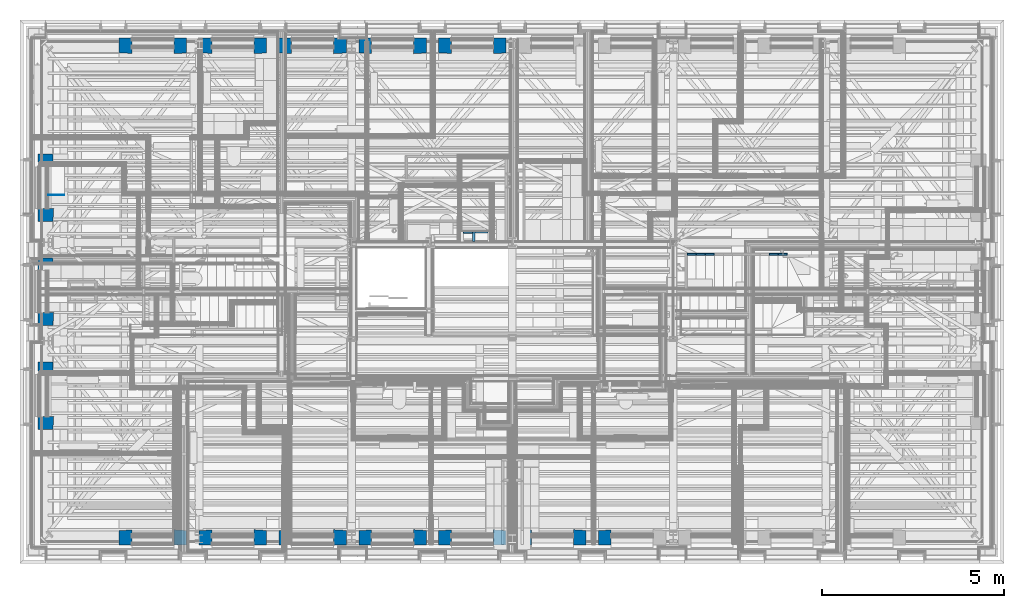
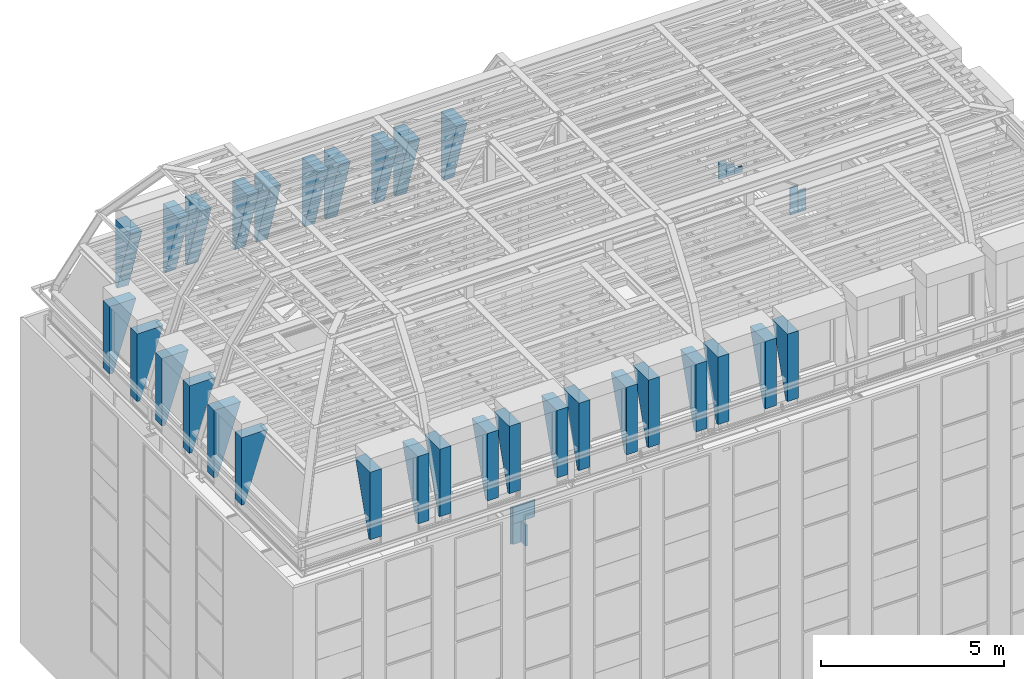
# One storey, part 24 of 183: 38 walls.
"""IFC2X3 building model written with IfcOpenShell, lengths in metres."""

from ifc_helpers import new_model, entity, si_unit, converted_unit, derived_unit, money_unit, direction, frame, frame_2d, origin_with_axes, place, context, subcontext, project, spatial, polyline, rectangle, outline, extrude, faceted_brep, material, layer, layer_set, layer_usage, type_object, element, save


model = new_model("IFC2X3")

# Units and contexts
model_context = context("Model", 3, precision=1e-05, world=origin_with_axes(), true_north=direction((0.0, 1.0)))
body_context = subcontext(model_context, "Body", "Model", "MODEL_VIEW", scale=1.0)
ifc_project = project(units=[si_unit("LENGTHUNIT", "METRE"), si_unit("AREAUNIT", "SQUARE_METRE"), si_unit("VOLUMEUNIT", "CUBIC_METRE"), si_unit("ABSORBEDDOSEUNIT", "GRAY"), si_unit("AMOUNTOFSUBSTANCEUNIT", "MOLE"), si_unit("DOSEEQUIVALENTUNIT", "SIEVERT"), si_unit("ELECTRICCAPACITANCEUNIT", "FARAD"), si_unit("ELECTRICCHARGEUNIT", "COULOMB"), si_unit("ELECTRICCONDUCTANCEUNIT", "SIEMENS"), si_unit("ELECTRICCURRENTUNIT", "AMPERE"), si_unit("ELECTRICRESISTANCEUNIT", "OHM"), si_unit("ELECTRICVOLTAGEUNIT", "VOLT"), si_unit("ENERGYUNIT", "JOULE"), si_unit("FORCEUNIT", "NEWTON"), si_unit("FREQUENCYUNIT", "HERTZ"), si_unit("ILLUMINANCEUNIT", "LUX"), si_unit("INDUCTANCEUNIT", "HENRY"), si_unit("LUMINOUSFLUXUNIT", "LUMEN"), si_unit("LUMINOUSINTENSITYUNIT", "CANDELA"), si_unit("MAGNETICFLUXDENSITYUNIT", "TESLA"), si_unit("MAGNETICFLUXUNIT", "WEBER"), si_unit("MASSUNIT", "GRAM"), converted_unit("PLANEANGLEUNIT", "degree", entity("IfcReal", 0.0174532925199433), si_unit("PLANEANGLEUNIT", "RADIAN"), dimensions=[0, 0, 0, 0, 0, 0, 0]), si_unit("POWERUNIT", "WATT"), si_unit("PRESSUREUNIT", "PASCAL"), si_unit("RADIOACTIVITYUNIT", "BECQUEREL"), si_unit("SOLIDANGLEUNIT", "STERADIAN"), si_unit("THERMODYNAMICTEMPERATUREUNIT", "KELVIN"), si_unit("TIMEUNIT", "SECOND"), derived_unit("ACCELERATIONUNIT", [(si_unit("LENGTHUNIT", "METRE"), 1), (si_unit("TIMEUNIT", "SECOND"), -2)]), derived_unit("ANGULARVELOCITYUNIT", [(converted_unit("PLANEANGLEUNIT", "degree", entity("IfcReal", 0.0174532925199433), si_unit("PLANEANGLEUNIT", "RADIAN"), dimensions=[0, 0, 0, 0, 0, 0, 0]), 1), (si_unit("TIMEUNIT", "SECOND"), -1)]), derived_unit("CURVATUREUNIT", [(converted_unit("PLANEANGLEUNIT", "degree", entity("IfcReal", 0.0174532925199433), si_unit("PLANEANGLEUNIT", "RADIAN"), dimensions=[0, 0, 0, 0, 0, 0, 0]), 1), (si_unit("LENGTHUNIT", "METRE"), -1)]), derived_unit("DYNAMICVISCOSITYUNIT", [(si_unit("PRESSUREUNIT", "PASCAL"), 1), (si_unit("TIMEUNIT", "SECOND"), 1)]), derived_unit("HEATFLUXDENSITYUNIT", [(si_unit("POWERUNIT", "WATT"), 1), (si_unit("LENGTHUNIT", "METRE"), -2)]), derived_unit("HEATINGVALUEUNIT", [(si_unit("ENERGYUNIT", "JOULE"), 1), (si_unit("MASSUNIT", "GRAM"), -1)]), derived_unit("INTEGERCOUNTRATEUNIT", [(si_unit("TIMEUNIT", "SECOND"), -1)]), derived_unit("IONCONCENTRATIONUNIT", [(si_unit("MASSUNIT", "GRAM"), 1), (si_unit("VOLUMEUNIT", "CUBIC_METRE"), -1)]), derived_unit("ISOTHERMALMOISTURECAPACITYUNIT", [(si_unit("VOLUMEUNIT", "CUBIC_METRE"), 1), (si_unit("MASSUNIT", "GRAM"), -1)]), derived_unit("KINEMATICVISCOSITYUNIT", [(si_unit("AREAUNIT", "SQUARE_METRE"), 1), (si_unit("TIMEUNIT", "SECOND"), -1)]), derived_unit("LINEARFORCEUNIT", [(si_unit("FORCEUNIT", "NEWTON"), 1), (si_unit("LENGTHUNIT", "METRE"), -1)]), derived_unit("LINEARMOMENTUNIT", [(si_unit("FORCEUNIT", "NEWTON"), 1), (si_unit("LENGTHUNIT", "METRE"), -1)]), derived_unit("LINEARSTIFFNESSUNIT", [(si_unit("FORCEUNIT", "NEWTON"), 1), (si_unit("LENGTHUNIT", "METRE"), -1)]), derived_unit("LINEARVELOCITYUNIT", [(si_unit("LENGTHUNIT", "METRE"), 1), (si_unit("TIMEUNIT", "SECOND"), -1)]), derived_unit("LUMINOUSINTENSITYDISTRIBUTIONUNIT", [(si_unit("LUMINOUSINTENSITYUNIT", "CANDELA"), 1), (si_unit("LUMINOUSFLUXUNIT", "LUMEN"), -1)]), derived_unit("MASSDENSITYUNIT", [(si_unit("MASSUNIT", "GRAM"), 1), (si_unit("VOLUMEUNIT", "CUBIC_METRE"), -1)]), derived_unit("MASSFLOWRATEUNIT", [(si_unit("MASSUNIT", "GRAM"), 1), (si_unit("TIMEUNIT", "SECOND"), -1)]), derived_unit("MASSPERLENGTHUNIT", [(si_unit("MASSUNIT", "GRAM"), 1), (si_unit("LENGTHUNIT", "METRE"), -1)]), derived_unit("MODULUSOFELASTICITYUNIT", [(si_unit("FORCEUNIT", "NEWTON"), 1), (si_unit("AREAUNIT", "SQUARE_METRE"), -1)]), derived_unit("MODULUSOFLINEARSUBGRADEREACTIONUNIT", [(si_unit("FORCEUNIT", "NEWTON"), 1), (si_unit("LENGTHUNIT", "METRE"), -2)]), derived_unit("MODULUSOFROTATIONALSUBGRADEREACTIONUNIT", [(si_unit("FORCEUNIT", "NEWTON"), 1), (si_unit("LENGTHUNIT", "METRE"), 1)]), derived_unit("MODULUSOFSUBGRADEREACTIONUNIT", [(si_unit("FORCEUNIT", "NEWTON"), 1), (si_unit("VOLUMEUNIT", "CUBIC_METRE"), -1)]), derived_unit("MOISTUREDIFFUSIVITYUNIT", [(si_unit("VOLUMEUNIT", "CUBIC_METRE"), 1), (si_unit("TIMEUNIT", "SECOND"), -1)]), derived_unit("MOLECULARWEIGHTUNIT", [(si_unit("MASSUNIT", "GRAM"), 1), (si_unit("AMOUNTOFSUBSTANCEUNIT", "MOLE"), -1)]), derived_unit("PLANARFORCEUNIT", [(si_unit("FORCEUNIT", "NEWTON"), 1), (si_unit("LENGTHUNIT", "METRE"), -2)]), derived_unit("ROTATIONALFREQUENCYUNIT", [(si_unit("TIMEUNIT", "SECOND"), -1)]), derived_unit("ROTATIONALMASSUNIT", [(si_unit("MASSUNIT", "GRAM"), 1), (si_unit("LENGTHUNIT", "METRE"), 2)]), derived_unit("ROTATIONALSTIFFNESSUNIT", [(si_unit("FORCEUNIT", "NEWTON"), 1), (si_unit("LENGTHUNIT", "METRE"), 1), (converted_unit("PLANEANGLEUNIT", "degree", entity("IfcReal", 0.0174532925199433), si_unit("PLANEANGLEUNIT", "RADIAN"), dimensions=[0, 0, 0, 0, 0, 0, 0]), -1)]), derived_unit("SECTIONAREAINTEGRALUNIT", [(si_unit("LENGTHUNIT", "METRE"), 5)]), derived_unit("SECTIONMODULUSUNIT", [(si_unit("LENGTHUNIT", "METRE"), 3)]), derived_unit("SHEARMODULUSUNIT", [(si_unit("FORCEUNIT", "NEWTON"), 1), (si_unit("AREAUNIT", "SQUARE_METRE"), -1)]), derived_unit("SOUNDPOWERUNIT", [(si_unit("ENERGYUNIT", "JOULE"), 1), (si_unit("TIMEUNIT", "SECOND"), -1)]), derived_unit("SPECIFICHEATCAPACITYUNIT", [(si_unit("FORCEUNIT", "NEWTON"), 1), (si_unit("MASSUNIT", "GRAM"), -1), (si_unit("THERMODYNAMICTEMPERATUREUNIT", "KELVIN"), -1)]), derived_unit("TEMPERATUREGRADIENTUNIT", [(si_unit("THERMODYNAMICTEMPERATUREUNIT", "KELVIN"), 1), (si_unit("LENGTHUNIT", "METRE"), -1)]), derived_unit("THERMALADMITTANCEUNIT", [(si_unit("POWERUNIT", "WATT"), 1), (si_unit("AREAUNIT", "SQUARE_METRE"), -1), (si_unit("THERMODYNAMICTEMPERATUREUNIT", "KELVIN"), -1)]), derived_unit("THERMALCONDUCTANCEUNIT", [(si_unit("POWERUNIT", "WATT"), 1), (si_unit("LENGTHUNIT", "METRE"), -1), (si_unit("THERMODYNAMICTEMPERATUREUNIT", "KELVIN"), -1)]), derived_unit("THERMALEXPANSIONCOEFFICIENTUNIT", [(si_unit("THERMODYNAMICTEMPERATUREUNIT", "KELVIN"), -1)]), derived_unit("THERMALRESISTANCEUNIT", [(si_unit("AREAUNIT", "SQUARE_METRE"), 1), (si_unit("POWERUNIT", "WATT"), -1)]), derived_unit("THERMALTRANSMITTANCEUNIT", [(si_unit("POWERUNIT", "WATT"), 1), (si_unit("AREAUNIT", "SQUARE_METRE"), -1), (si_unit("THERMODYNAMICTEMPERATUREUNIT", "KELVIN"), -1)]), derived_unit("TORQUEUNIT", [(si_unit("FORCEUNIT", "NEWTON"), 1), (si_unit("LENGTHUNIT", "METRE"), 1)]), derived_unit("VAPORPERMEABILITYUNIT", [(si_unit("MASSUNIT", "GRAM"), 1), (si_unit("TIMEUNIT", "SECOND"), -1)]), derived_unit("VOLUMETRICFLOWRATEUNIT", [(si_unit("VOLUMEUNIT", "CUBIC_METRE"), 1), (si_unit("TIMEUNIT", "SECOND"), -1)]), derived_unit("WARPINGCONSTANTUNIT", [(si_unit("LENGTHUNIT", "METRE"), 6)]), derived_unit("WARPINGMOMENTUNIT", [(si_unit("FORCEUNIT", "NEWTON"), 1), (si_unit("LENGTHUNIT", "METRE"), 2)]), money_unit("GBP")], contexts=[model_context])

# Site, building, storey
site_placement = place(None, origin_with_axes())
site = spatial("IfcSite", under=ifc_project, at=site_placement, Name="Site", CompositionType="ELEMENT")
building_placement = place(site_placement, origin_with_axes())
building = spatial("IfcBuilding", under=site, at=building_placement, Name="Building01", CompositionType="ELEMENT")
storey_placement = place(building_placement, frame((0.0, 0.0, 5.15), z_axis=(0.0, 0.0, 1.0), x_axis=(1.0, 0.0, 0.0)))
storey = spatial("IfcBuildingStorey", under=building, at=storey_placement, Name="1F", CompositionType="ELEMENT", Elevation=5.15)

# Walls
ifc_material_1 = material(Name="A_BSUK_WallsInternal")
ifc_layer_1 = layer(ifc_material_1, 0.05, ventilated=False)
ifc_layer_set_1 = layer_set([ifc_layer_1])
ifc_layer_usage_1 = layer_usage(ifc_layer_set_1, "AXIS2", "POSITIVE", 0.0)
wall_type_1 = type_object("IfcWallType", Name="A-Walls-Internal", PredefinedType="NOTDEFINED")
wall_1_placement = place(storey_placement, frame((20.539976, 8.449915, 9.78), z_axis=(0.0, 0.0, 1.0), x_axis=(1.0, 0.0, 0.0)))
element("IfcWallStandardCase", 1, at=wall_1_placement, inside=storey, type_object=wall_type_1, material=ifc_layer_usage_1, Name="A-Walls-Internal", ObjectType="A-Walls-Internal", context=body_context, shape_type="SweptSolid", body=[
    extrude(rectangle(XDim=0.25, YDim=0.05, at=frame_2d((0.125, 0.025), x_axis=(1.0, 0.0))), origin_with_axes(), (0.0, 0.0, 1.0), 0.9),
])
wall_2_placement = place(storey_placement, frame((20.789976, 8.449915, 9.78), z_axis=(0.0, 0.0, 1.0), x_axis=(1.0, 0.0, 0.0)))
element("IfcWallStandardCase", 2, at=wall_2_placement, inside=storey, type_object=wall_type_1, material=ifc_layer_usage_1, Name="A-Walls-Internal", ObjectType="A-Walls-Internal", context=body_context, shape_type="SweptSolid", body=[
    extrude(rectangle(XDim=0.25, YDim=0.05, at=frame_2d((0.125, 0.025), x_axis=(1.0, 0.0))), origin_with_axes(), (0.0, 0.0, 1.0), 0.72),
])
wall_3_placement = place(storey_placement, frame((18.789976, 8.449915, 11.76), z_axis=(0.0, 0.0, 1.0), x_axis=(1.0, 0.0, 0.0)))
element("IfcWallStandardCase", 3, at=wall_3_placement, inside=storey, type_object=wall_type_1, material=ifc_layer_usage_1, Name="A-Walls-Internal", ObjectType="A-Walls-Internal", context=body_context, shape_type="SweptSolid", body=[
    extrude(rectangle(XDim=0.25, YDim=0.05, at=frame_2d((0.125, 0.025), x_axis=(1.0, 0.0))), origin_with_axes(), (0.0, 0.0, 1.0), 0.18),
])
wall_4_placement = place(storey_placement, frame((18.539976, 8.449915, 11.76), z_axis=(0.0, 0.0, 1.0), x_axis=(1.0, 0.0, 0.0)))
element("IfcWallStandardCase", 4, at=wall_4_placement, inside=storey, type_object=wall_type_1, material=ifc_layer_usage_1, Name="A-Walls-Internal", ObjectType="A-Walls-Internal", context=body_context, shape_type="SweptSolid", body=[
    extrude(rectangle(XDim=0.25, YDim=0.05, at=frame_2d((0.125, 0.025), x_axis=(1.0, 0.0))), origin_with_axes(), (0.0, 0.0, 1.0), 0.36),
])
wall_5_placement = place(storey_placement, frame((18.289976, 8.449915, 11.76), z_axis=(0.0, 0.0, 1.0), x_axis=(1.0, 0.0, 0.0)))
element("IfcWallStandardCase", 5, at=wall_5_placement, inside=storey, type_object=wall_type_1, material=ifc_layer_usage_1, Name="A-Walls-Internal", ObjectType="A-Walls-Internal", context=body_context, shape_type="SweptSolid", body=[
    extrude(rectangle(XDim=0.25, YDim=0.05, at=frame_2d((0.125, 0.025), x_axis=(1.0, 0.0))), origin_with_axes(), (0.0, 0.0, 1.0), 0.54),
])
ifc_material_2 = material(Name="A_BSUK_OpeningsClearance")
ifc_layer_2 = layer(ifc_material_2, 0.05, ventilated=False)
ifc_material_3 = material(Name="A_BSUK_Walls_Timber")
ifc_layer_3 = layer(ifc_material_3, 0.015, ventilated=False)
ifc_layer_set_2 = layer_set([ifc_layer_2, ifc_layer_3])
ifc_layer_usage_2 = layer_usage(ifc_layer_set_2, "AXIS2", "POSITIVE", 0.0)
wall_type_2 = type_object("IfcWallType", Name="SHE_A-Walls_Type05c_PreWallShell_65mm", PredefinedType="NOTDEFINED")
wall_6_placement = place(storey_placement, frame((12.153871, 9.055, 2.065), z_axis=(0.0, 0.0, 1.0), x_axis=(1.0, 0.0, 0.0)))
element("IfcWallStandardCase", 6, at=wall_6_placement, inside=storey, type_object=wall_type_2, material=ifc_layer_usage_2, Name="5C", ObjectType="SHE_A-Walls_Type05c_PreWallShell_65mm", context=body_context, shape_type="SweptSolid", body=[
    extrude(outline(polyline([(0.674714, 0.05), (0.724714, 0.05), (0.724714, 0.065), (-0.05, 0.065), (-0.05, 0.05), (0.0, 0.05), (0.0, 0.0), (0.674714, 0.0), (0.674714, 0.05)])), origin_with_axes(), (0.0, 0.0, 1.0), 0.55),
])
wall_7_placement = place(storey_placement, frame((12.153871, 9.055, 1.375), z_axis=(0.0, 0.0, 1.0), x_axis=(1.0, 0.0, 0.0)))
element("IfcWallStandardCase", 7, at=wall_7_placement, inside=storey, type_object=wall_type_2, material=ifc_layer_usage_2, Name="5C", ObjectType="SHE_A-Walls_Type05c_PreWallShell_65mm", context=body_context, shape_type="SweptSolid", body=[
    extrude(outline(polyline([(0.259714, 0.05), (0.309714, 0.05), (0.309714, 0.065), (-0.05, 0.065), (-0.05, 0.05), (0.0, 0.05), (0.0, 0.0), (0.259714, 0.0), (0.259714, 0.05)])), origin_with_axes(), (0.0, 0.0, 1.0), 0.69),
])
wall_8_placement = place(storey_placement, frame((12.413585, 9.105, 1.375), z_axis=(0.0, 0.0, 1.0), x_axis=(0.0, -1.0, 0.0)))
element("IfcWallStandardCase", 8, at=wall_8_placement, inside=storey, type_object=wall_type_2, material=ifc_layer_usage_2, Name="5C", ObjectType="SHE_A-Walls_Type05c_PreWallShell_65mm", context=body_context, shape_type="SweptSolid", body=[
    extrude(outline(polyline([(0.285, 0.065), (-0.015, 0.065), (-0.015, 0.05), (0.0, 0.05), (0.0, 0.0), (0.285, 0.0), (0.285, 0.065)])), origin_with_axes(), (0.0, 0.0, 1.0), 0.69),
])
ifc_material_4 = material(Name="A_BSUK_Roofs")
wall_type_3 = type_object("IfcWallType", Name="A-Walls-ExternalBlock", PredefinedType="NOTDEFINED")
wall_9_placement = place(storey_placement, frame((3.070049, 0.499939, 10.03), z_axis=(0.0, 0.0, 1.0), x_axis=(0.0, 1.0, 0.0)))
element("IfcWall", 9, at=wall_9_placement, inside=storey, type_object=wall_type_3, material=ifc_material_4, Name="7C", ObjectType="A-Walls-ExternalBlock", context=body_context, shape_type="Brep", body=[
    faceted_brep([(0.110404, 0.0, 0.0), (0.088324, 0.35, 0.0), (0.819393, 0.35, 2.25), (0.841474, 0.0, 2.25), (0.0, 0.0, 0.0), (0.0, 0.35, 0.0), (0.0, 0.0, 2.25), (0.0, 0.35, 2.25)], [[[0, 1, 2, 3]], [[1, 0, 4, 5]], [[0, 3, 6, 4]], [[2, 1, 5, 7]], [[3, 2, 7, 6]], [[5, 4, 6, 7]]]),
])
wall_10_placement = place(storey_placement, frame((4.57, 0.499939, 10.03), z_axis=(0.0, 0.0, 1.0), x_axis=(0.0, 1.0, 0.0)))
element("IfcWall", 10, at=wall_10_placement, inside=storey, type_object=wall_type_3, material=ifc_material_4, Name="7C", ObjectType="A-Walls-ExternalBlock", context=body_context, shape_type="Brep", body=[
    faceted_brep([(0.094632, 0.0, 0.0), (0.116713, 0.35, 0.0), (0.847783, 0.35, 2.25), (0.825702, 0.0, 2.25), (0.0, 0.0, 0.0), (0.0, 0.35, 0.0), (0.0, 0.0, 2.25), (0.0, 0.35, 2.25)], [[[0, 1, 2, 3]], [[1, 0, 4, 5]], [[0, 3, 6, 4]], [[2, 1, 5, 7]], [[3, 2, 7, 6]], [[5, 4, 6, 7]]]),
])
wall_11_placement = place(storey_placement, frame((5.260049, 0.499939, 10.03), z_axis=(0.0, 0.0, 1.0), x_axis=(0.0, 1.0, 0.0)))
element("IfcWall", 11, at=wall_11_placement, inside=storey, type_object=wall_type_3, material=ifc_material_4, Name="7C", ObjectType="A-Walls-ExternalBlock", context=body_context, shape_type="Brep", body=[
    faceted_brep([(0.110404, 0.0, 0.0), (0.088324, 0.35, 0.0), (0.819393, 0.35, 2.25), (0.841474, 0.0, 2.25), (0.0, 0.0, 0.0), (0.0, 0.35, 0.0), (0.0, 0.0, 2.25), (0.0, 0.35, 2.25)], [[[0, 1, 2, 3]], [[1, 0, 4, 5]], [[0, 3, 6, 4]], [[2, 1, 5, 7]], [[3, 2, 7, 6]], [[5, 4, 6, 7]]]),
])
wall_12_placement = place(storey_placement, frame((6.76, 0.499939, 10.03), z_axis=(0.0, 0.0, 1.0), x_axis=(0.0, 1.0, 0.0)))
element("IfcWall", 12, at=wall_12_placement, inside=storey, type_object=wall_type_3, material=ifc_material_4, Name="7C", ObjectType="A-Walls-ExternalBlock", context=body_context, shape_type="Brep", body=[
    faceted_brep([(0.094632, 0.0, 0.0), (0.116713, 0.35, 0.0), (0.847783, 0.35, 2.25), (0.825702, 0.0, 2.25), (0.0, 0.0, 0.0), (0.0, 0.35, 0.0), (0.0, 0.0, 2.25), (0.0, 0.35, 2.25)], [[[0, 1, 2, 3]], [[1, 0, 4, 5]], [[0, 3, 6, 4]], [[2, 1, 5, 7]], [[3, 2, 7, 6]], [[5, 4, 6, 7]]]),
])
wall_13_placement = place(storey_placement, frame((7.450049, 0.499939, 10.03), z_axis=(0.0, 0.0, 1.0), x_axis=(0.0, 1.0, 0.0)))
element("IfcWall", 13, at=wall_13_placement, inside=storey, type_object=wall_type_3, material=ifc_material_4, Name="7C", ObjectType="A-Walls-ExternalBlock", context=body_context, shape_type="Brep", body=[
    faceted_brep([(0.110404, 0.0, 0.0), (0.088324, 0.35, 0.0), (0.819393, 0.35, 2.25), (0.841474, 0.0, 2.25), (0.0, 0.0, 0.0), (0.0, 0.35, 0.0), (0.0, 0.0, 2.25), (0.0, 0.35, 2.25)], [[[0, 1, 2, 3]], [[1, 0, 4, 5]], [[0, 3, 6, 4]], [[2, 1, 5, 7]], [[3, 2, 7, 6]], [[5, 4, 6, 7]]]),
])
wall_14_placement = place(storey_placement, frame((8.95, 0.499939, 10.03), z_axis=(0.0, 0.0, 1.0), x_axis=(0.0, 1.0, 0.0)))
element("IfcWall", 14, at=wall_14_placement, inside=storey, type_object=wall_type_3, material=ifc_material_4, Name="7C", ObjectType="A-Walls-ExternalBlock", context=body_context, shape_type="Brep", body=[
    faceted_brep([(0.094632, 0.0, 0.0), (0.116713, 0.35, 0.0), (0.847783, 0.35, 2.25), (0.825702, 0.0, 2.25), (0.0, 0.0, 0.0), (0.0, 0.35, 0.0), (0.0, 0.0, 2.25), (0.0, 0.35, 2.25)], [[[0, 1, 2, 3]], [[1, 0, 4, 5]], [[0, 3, 6, 4]], [[2, 1, 5, 7]], [[3, 2, 7, 6]], [[5, 4, 6, 7]]]),
])
wall_15_placement = place(storey_placement, frame((9.640049, 0.499939, 10.03), z_axis=(0.0, 0.0, 1.0), x_axis=(0.0, 1.0, 0.0)))
element("IfcWall", 15, at=wall_15_placement, inside=storey, type_object=wall_type_3, material=ifc_material_4, Name="7C", ObjectType="A-Walls-ExternalBlock", context=body_context, shape_type="Brep", body=[
    faceted_brep([(0.110404, 0.0, 0.0), (0.088324, 0.35, 0.0), (0.819393, 0.35, 2.25), (0.841474, 0.0, 2.25), (0.0, 0.0, 0.0), (0.0, 0.35, 0.0), (0.0, 0.0, 2.25), (0.0, 0.35, 2.25)], [[[0, 1, 2, 3]], [[1, 0, 4, 5]], [[0, 3, 6, 4]], [[2, 1, 5, 7]], [[3, 2, 7, 6]], [[5, 4, 6, 7]]]),
])
wall_16_placement = place(storey_placement, frame((11.14, 0.499939, 10.03), z_axis=(0.0, 0.0, 1.0), x_axis=(0.0, 1.0, 0.0)))
element("IfcWall", 16, at=wall_16_placement, inside=storey, type_object=wall_type_3, material=ifc_material_4, Name="7C", ObjectType="A-Walls-ExternalBlock", context=body_context, shape_type="Brep", body=[
    faceted_brep([(0.094632, 0.0, 0.0), (0.116713, 0.35, 0.0), (0.847783, 0.35, 2.25), (0.825702, 0.0, 2.25), (0.0, 0.0, 0.0), (0.0, 0.35, 0.0), (0.0, 0.0, 2.25), (0.0, 0.35, 2.25)], [[[0, 1, 2, 3]], [[1, 0, 4, 5]], [[0, 3, 6, 4]], [[2, 1, 5, 7]], [[3, 2, 7, 6]], [[5, 4, 6, 7]]]),
])
wall_17_placement = place(storey_placement, frame((11.830049, 0.499939, 10.03), z_axis=(0.0, 0.0, 1.0), x_axis=(0.0, 1.0, 0.0)))
element("IfcWall", 17, at=wall_17_placement, inside=storey, type_object=wall_type_3, material=ifc_material_4, Name="7C", ObjectType="A-Walls-ExternalBlock", context=body_context, shape_type="Brep", body=[
    faceted_brep([(0.110404, 0.0, 0.0), (0.088324, 0.35, 0.0), (0.819393, 0.35, 2.25), (0.841474, 0.0, 2.25), (0.0, 0.0, 0.0), (0.0, 0.35, 0.0), (0.0, 0.0, 2.25), (0.0, 0.35, 2.25)], [[[0, 1, 2, 3]], [[1, 0, 4, 5]], [[0, 3, 6, 4]], [[2, 1, 5, 7]], [[3, 2, 7, 6]], [[5, 4, 6, 7]]]),
])
wall_18_placement = place(storey_placement, frame((13.33, 0.499939, 10.03), z_axis=(0.0, 0.0, 1.0), x_axis=(0.0, 1.0, 0.0)))
element("IfcWall", 18, at=wall_18_placement, inside=storey, type_object=wall_type_3, material=ifc_material_4, Name="7C", ObjectType="A-Walls-ExternalBlock", context=body_context, shape_type="Brep", body=[
    faceted_brep([(0.094632, 0.0, 0.0), (0.116713, 0.35, 0.0), (0.847783, 0.35, 2.25), (0.825702, 0.0, 2.25), (0.0, 0.0, 0.0), (0.0, 0.35, 0.0), (0.0, 0.0, 2.25), (0.0, 0.35, 2.25)], [[[0, 1, 2, 3]], [[1, 0, 4, 5]], [[0, 3, 6, 4]], [[2, 1, 5, 7]], [[3, 2, 7, 6]], [[5, 4, 6, 7]]]),
])
wall_19_placement = place(storey_placement, frame((14.020024, 0.499939, 10.03), z_axis=(0.0, 0.0, 1.0), x_axis=(0.0, 1.0, 0.0)))
element("IfcWall", 19, at=wall_19_placement, inside=storey, type_object=wall_type_3, material=ifc_material_4, Name="7C", ObjectType="A-Walls-ExternalBlock", context=body_context, shape_type="Brep", body=[
    faceted_brep([(0.110404, 0.0, 0.0), (0.088324, 0.35, 0.0), (0.819393, 0.35, 2.25), (0.841474, 0.0, 2.25), (0.0, 0.0, 0.0), (0.0, 0.35, 0.0), (0.0, 0.0, 2.25), (0.0, 0.35, 2.25)], [[[0, 1, 2, 3]], [[1, 0, 4, 5]], [[0, 3, 6, 4]], [[2, 1, 5, 7]], [[3, 2, 7, 6]], [[5, 4, 6, 7]]]),
])
wall_20_placement = place(storey_placement, frame((15.519976, 0.499939, 10.03), z_axis=(0.0, 0.0, 1.0), x_axis=(0.0, 1.0, 0.0)))
element("IfcWall", 20, at=wall_20_placement, inside=storey, type_object=wall_type_3, material=ifc_material_4, Name="7C", ObjectType="A-Walls-ExternalBlock", context=body_context, shape_type="Brep", body=[
    faceted_brep([(0.094632, 0.0, 0.0), (0.116713, 0.35, 0.0), (0.847783, 0.35, 2.25), (0.825702, 0.0, 2.25), (0.0, 0.0, 0.0), (0.0, 0.35, 0.0), (0.0, 0.0, 2.25), (0.0, 0.35, 2.25)], [[[0, 1, 2, 3]], [[1, 0, 4, 5]], [[0, 3, 6, 4]], [[2, 1, 5, 7]], [[3, 2, 7, 6]], [[5, 4, 6, 7]]]),
])
wall_21_placement = place(storey_placement, frame((16.210024, 0.499939, 10.03), z_axis=(0.0, 0.0, 1.0), x_axis=(0.0, 1.0, 0.0)))
element("IfcWall", 21, at=wall_21_placement, inside=storey, type_object=wall_type_3, material=ifc_material_4, Name="7C", ObjectType="A-Walls-ExternalBlock", context=body_context, shape_type="Brep", body=[
    faceted_brep([(0.110404, 0.0, 0.0), (0.088324, 0.35, 0.0), (0.819393, 0.35, 2.25), (0.841474, 0.0, 2.25), (0.0, 0.0, 0.0), (0.0, 0.35, 0.0), (0.0, 0.0, 2.25), (0.0, 0.35, 2.25)], [[[0, 1, 2, 3]], [[1, 0, 4, 5]], [[0, 3, 6, 4]], [[2, 1, 5, 7]], [[3, 2, 7, 6]], [[5, 4, 6, 7]]]),
])
wall_22_placement = place(storey_placement, frame((3.070049, 14.400096, 10.03), z_axis=(0.0, 0.0, 1.0), x_axis=(0.0, 1.0, 0.0)))
element("IfcWall", 22, at=wall_22_placement, inside=storey, type_object=wall_type_3, material=ifc_material_4, Name="7C", ObjectType="A-Walls-ExternalBlock", context=body_context, shape_type="Brep", body=[
    faceted_brep([(-0.088324, 0.35, 0.0), (-0.110404, 0.0, 0.0), (-0.841474, 0.0, 2.25), (-0.819393, 0.35, 2.25), (0.0, 0.35, 0.0), (0.0, 0.0, 0.0), (0.0, 0.35, 2.25), (0.0, 0.0, 2.25)], [[[0, 1, 2, 3]], [[1, 0, 4, 5]], [[0, 3, 6, 4]], [[2, 1, 5, 7]], [[3, 2, 7, 6]], [[5, 4, 6, 7]]]),
])
wall_23_placement = place(storey_placement, frame((4.57, 14.400096, 10.03), z_axis=(0.0, 0.0, 1.0), x_axis=(0.0, 1.0, 0.0)))
element("IfcWall", 23, at=wall_23_placement, inside=storey, type_object=wall_type_3, material=ifc_material_4, Name="7C", ObjectType="A-Walls-ExternalBlock", context=body_context, shape_type="Brep", body=[
    faceted_brep([(-0.116713, 0.35, 0.0), (-0.094632, 0.0, 0.0), (-0.825702, 0.0, 2.25), (-0.847783, 0.35, 2.25), (0.0, 0.35, 0.0), (0.0, 0.0, 0.0), (0.0, 0.35, 2.25), (0.0, 0.0, 2.25)], [[[0, 1, 2, 3]], [[1, 0, 4, 5]], [[0, 3, 6, 4]], [[2, 1, 5, 7]], [[3, 2, 7, 6]], [[5, 4, 6, 7]]]),
])
wall_24_placement = place(storey_placement, frame((5.260049, 14.400096, 10.03), z_axis=(0.0, 0.0, 1.0), x_axis=(0.0, 1.0, 0.0)))
element("IfcWall", 24, at=wall_24_placement, inside=storey, type_object=wall_type_3, material=ifc_material_4, Name="7C", ObjectType="A-Walls-ExternalBlock", context=body_context, shape_type="Brep", body=[
    faceted_brep([(-0.088324, 0.35, 0.0), (-0.110404, 0.0, 0.0), (-0.841474, 0.0, 2.25), (-0.819393, 0.35, 2.25), (0.0, 0.35, 0.0), (0.0, 0.0, 0.0), (0.0, 0.35, 2.25), (0.0, 0.0, 2.25)], [[[0, 1, 2, 3]], [[1, 0, 4, 5]], [[0, 3, 6, 4]], [[2, 1, 5, 7]], [[3, 2, 7, 6]], [[5, 4, 6, 7]]]),
])
wall_25_placement = place(storey_placement, frame((6.76, 14.400096, 10.03), z_axis=(0.0, 0.0, 1.0), x_axis=(0.0, 1.0, 0.0)))
element("IfcWall", 25, at=wall_25_placement, inside=storey, type_object=wall_type_3, material=ifc_material_4, Name="7C", ObjectType="A-Walls-ExternalBlock", context=body_context, shape_type="Brep", body=[
    faceted_brep([(-0.116713, 0.35, 0.0), (-0.094632, 0.0, 0.0), (-0.825702, 0.0, 2.25), (-0.847783, 0.35, 2.25), (0.0, 0.35, 0.0), (0.0, 0.0, 0.0), (0.0, 0.35, 2.25), (0.0, 0.0, 2.25)], [[[0, 1, 2, 3]], [[1, 0, 4, 5]], [[0, 3, 6, 4]], [[2, 1, 5, 7]], [[3, 2, 7, 6]], [[5, 4, 6, 7]]]),
])
wall_26_placement = place(storey_placement, frame((7.450049, 14.400096, 10.03), z_axis=(0.0, 0.0, 1.0), x_axis=(0.0, 1.0, 0.0)))
element("IfcWall", 26, at=wall_26_placement, inside=storey, type_object=wall_type_3, material=ifc_material_4, Name="7C", ObjectType="A-Walls-ExternalBlock", context=body_context, shape_type="Brep", body=[
    faceted_brep([(-0.088324, 0.35, 0.0), (-0.110404, 0.0, 0.0), (-0.841474, 0.0, 2.25), (-0.819393, 0.35, 2.25), (0.0, 0.35, 0.0), (0.0, 0.0, 0.0), (0.0, 0.35, 2.25), (0.0, 0.0, 2.25)], [[[0, 1, 2, 3]], [[1, 0, 4, 5]], [[0, 3, 6, 4]], [[2, 1, 5, 7]], [[3, 2, 7, 6]], [[5, 4, 6, 7]]]),
])
wall_27_placement = place(storey_placement, frame((8.95, 14.400096, 10.03), z_axis=(0.0, 0.0, 1.0), x_axis=(0.0, 1.0, 0.0)))
element("IfcWall", 27, at=wall_27_placement, inside=storey, type_object=wall_type_3, material=ifc_material_4, Name="7C", ObjectType="A-Walls-ExternalBlock", context=body_context, shape_type="Brep", body=[
    faceted_brep([(-0.116713, 0.35, 0.0), (-0.094632, 0.0, 0.0), (-0.825702, 0.0, 2.25), (-0.847783, 0.35, 2.25), (0.0, 0.35, 0.0), (0.0, 0.0, 0.0), (0.0, 0.35, 2.25), (0.0, 0.0, 2.25)], [[[0, 1, 2, 3]], [[1, 0, 4, 5]], [[0, 3, 6, 4]], [[2, 1, 5, 7]], [[3, 2, 7, 6]], [[5, 4, 6, 7]]]),
])
wall_28_placement = place(storey_placement, frame((9.640049, 14.400096, 10.03), z_axis=(0.0, 0.0, 1.0), x_axis=(0.0, 1.0, 0.0)))
element("IfcWall", 28, at=wall_28_placement, inside=storey, type_object=wall_type_3, material=ifc_material_4, Name="7C", ObjectType="A-Walls-ExternalBlock", context=body_context, shape_type="Brep", body=[
    faceted_brep([(-0.088324, 0.35, 0.0), (-0.110404, 0.0, 0.0), (-0.841474, 0.0, 2.25), (-0.819393, 0.35, 2.25), (0.0, 0.35, 0.0), (0.0, 0.0, 0.0), (0.0, 0.35, 2.25), (0.0, 0.0, 2.25)], [[[0, 1, 2, 3]], [[1, 0, 4, 5]], [[0, 3, 6, 4]], [[2, 1, 5, 7]], [[3, 2, 7, 6]], [[5, 4, 6, 7]]]),
])
wall_29_placement = place(storey_placement, frame((11.14, 14.400096, 10.03), z_axis=(0.0, 0.0, 1.0), x_axis=(0.0, 1.0, 0.0)))
element("IfcWall", 29, at=wall_29_placement, inside=storey, type_object=wall_type_3, material=ifc_material_4, Name="7C", ObjectType="A-Walls-ExternalBlock", context=body_context, shape_type="Brep", body=[
    faceted_brep([(-0.116713, 0.35, 0.0), (-0.094632, 0.0, 0.0), (-0.825702, 0.0, 2.25), (-0.847783, 0.35, 2.25), (0.0, 0.35, 0.0), (0.0, 0.0, 0.0), (0.0, 0.35, 2.25), (0.0, 0.0, 2.25)], [[[0, 1, 2, 3]], [[1, 0, 4, 5]], [[0, 3, 6, 4]], [[2, 1, 5, 7]], [[3, 2, 7, 6]], [[5, 4, 6, 7]]]),
])
wall_30_placement = place(storey_placement, frame((11.830049, 14.400096, 10.03), z_axis=(0.0, 0.0, 1.0), x_axis=(0.0, 1.0, 0.0)))
element("IfcWall", 30, at=wall_30_placement, inside=storey, type_object=wall_type_3, material=ifc_material_4, Name="7C", ObjectType="A-Walls-ExternalBlock", context=body_context, shape_type="Brep", body=[
    faceted_brep([(-0.088324, 0.35, 0.0), (-0.110404, 0.0, 0.0), (-0.841474, 0.0, 2.25), (-0.819393, 0.35, 2.25), (0.0, 0.35, 0.0), (0.0, 0.0, 0.0), (0.0, 0.35, 2.25), (0.0, 0.0, 2.25)], [[[0, 1, 2, 3]], [[1, 0, 4, 5]], [[0, 3, 6, 4]], [[2, 1, 5, 7]], [[3, 2, 7, 6]], [[5, 4, 6, 7]]]),
])
wall_31_placement = place(storey_placement, frame((13.33, 14.400096, 10.03), z_axis=(0.0, 0.0, 1.0), x_axis=(0.0, 1.0, 0.0)))
element("IfcWall", 31, at=wall_31_placement, inside=storey, type_object=wall_type_3, material=ifc_material_4, Name="7C", ObjectType="A-Walls-ExternalBlock", context=body_context, shape_type="Brep", body=[
    faceted_brep([(-0.116713, 0.35, 0.0), (-0.094632, 0.0, 0.0), (-0.825702, 0.0, 2.25), (-0.847783, 0.35, 2.25), (0.0, 0.35, 0.0), (0.0, 0.0, 0.0), (0.0, 0.35, 2.25), (0.0, 0.0, 2.25)], [[[0, 1, 2, 3]], [[1, 0, 4, 5]], [[0, 3, 6, 4]], [[2, 1, 5, 7]], [[3, 2, 7, 6]], [[5, 4, 6, 7]]]),
])
wall_32_placement = place(storey_placement, frame((0.499844, 5.174891, 10.03), z_axis=(0.0, 0.0, 1.0), x_axis=(1.0, 0.0, 0.0)))
element("IfcWall", 32, at=wall_32_placement, inside=storey, type_object=wall_type_3, material=ifc_material_4, Name="7C", ObjectType="A-Walls-ExternalBlock", context=body_context, shape_type="Brep", body=[
    faceted_brep([(0.110404, 0.0, 0.0), (0.088324, 0.35, 0.0), (0.819393, 0.35, 2.25), (0.841474, 0.0, 2.25), (0.0, 0.0, 0.0), (0.0, 0.35, 0.0), (0.0, 0.0, 2.25), (0.0, 0.35, 2.25)], [[[0, 1, 2, 3]], [[1, 0, 4, 5]], [[0, 3, 6, 4]], [[2, 1, 5, 7]], [[3, 2, 7, 6]], [[5, 4, 6, 7]]]),
])
wall_33_placement = place(storey_placement, frame((0.499844, 3.674939, 10.03), z_axis=(0.0, 0.0, 1.0), x_axis=(1.0, 0.0, 0.0)))
element("IfcWall", 33, at=wall_33_placement, inside=storey, type_object=wall_type_3, material=ifc_material_4, Name="7C", ObjectType="A-Walls-ExternalBlock", context=body_context, shape_type="Brep", body=[
    faceted_brep([(0.094632, 0.0, 0.0), (0.116713, 0.35, 0.0), (0.847783, 0.35, 2.25), (0.825702, 0.0, 2.25), (0.0, 0.0, 0.0), (0.0, 0.35, 0.0), (0.0, 0.0, 2.25), (0.0, 0.35, 2.25)], [[[0, 1, 2, 3]], [[1, 0, 4, 5]], [[0, 3, 6, 4]], [[2, 1, 5, 7]], [[3, 2, 7, 6]], [[5, 4, 6, 7]]]),
])
wall_34_placement = place(storey_placement, frame((0.499844, 8.024891, 10.03), z_axis=(0.0, 0.0, 1.0), x_axis=(1.0, 0.0, 0.0)))
element("IfcWall", 34, at=wall_34_placement, inside=storey, type_object=wall_type_3, material=ifc_material_4, Name="7C", ObjectType="A-Walls-ExternalBlock", context=body_context, shape_type="Brep", body=[
    faceted_brep([(0.110404, 0.0, 0.0), (0.088324, 0.35, 0.0), (0.819393, 0.35, 2.25), (0.841474, 0.0, 2.25), (0.0, 0.0, 0.0), (0.0, 0.35, 0.0), (0.0, 0.0, 2.25), (0.0, 0.35, 2.25)], [[[0, 1, 2, 3]], [[1, 0, 4, 5]], [[0, 3, 6, 4]], [[2, 1, 5, 7]], [[3, 2, 7, 6]], [[5, 4, 6, 7]]]),
])
wall_35_placement = place(storey_placement, frame((0.499844, 6.524939, 10.03), z_axis=(0.0, 0.0, 1.0), x_axis=(1.0, 0.0, 0.0)))
element("IfcWall", 35, at=wall_35_placement, inside=storey, type_object=wall_type_3, material=ifc_material_4, Name="7C", ObjectType="A-Walls-ExternalBlock", context=body_context, shape_type="Brep", body=[
    faceted_brep([(0.094632, 0.0, 0.0), (0.116713, 0.35, 0.0), (0.847783, 0.35, 2.25), (0.825702, 0.0, 2.25), (0.0, 0.0, 0.0), (0.0, 0.35, 0.0), (0.0, 0.0, 2.25), (0.0, 0.35, 2.25)], [[[0, 1, 2, 3]], [[1, 0, 4, 5]], [[0, 3, 6, 4]], [[2, 1, 5, 7]], [[3, 2, 7, 6]], [[5, 4, 6, 7]]]),
])
wall_36_placement = place(storey_placement, frame((0.499844, 10.874891, 10.03), z_axis=(0.0, 0.0, 1.0), x_axis=(1.0, 0.0, 0.0)))
element("IfcWall", 36, at=wall_36_placement, inside=storey, type_object=wall_type_3, material=ifc_material_4, Name="7C", ObjectType="A-Walls-ExternalBlock", context=body_context, shape_type="Brep", body=[
    faceted_brep([(0.110404, 0.0, 0.0), (0.088324, 0.35, 0.0), (0.819393, 0.35, 2.25), (0.841474, 0.0, 2.25), (0.0, 0.0, 0.0), (0.0, 0.35, 0.0), (0.0, 0.0, 2.25), (0.0, 0.35, 2.25)], [[[0, 1, 2, 3]], [[1, 0, 4, 5]], [[0, 3, 6, 4]], [[2, 1, 5, 7]], [[3, 2, 7, 6]], [[5, 4, 6, 7]]]),
])
wall_37_placement = place(storey_placement, frame((0.499844, 9.374939, 10.03), z_axis=(0.0, 0.0, 1.0), x_axis=(1.0, 0.0, 0.0)))
element("IfcWall", 37, at=wall_37_placement, inside=storey, type_object=wall_type_3, material=ifc_material_4, Name="7C", ObjectType="A-Walls-ExternalBlock", context=body_context, shape_type="Brep", body=[
    faceted_brep([(0.094632, 0.0, 0.0), (0.116713, 0.35, 0.0), (0.847783, 0.35, 2.25), (0.825702, 0.0, 2.25), (0.0, 0.0, 0.0), (0.0, 0.35, 0.0), (0.0, 0.0, 2.25), (0.0, 0.35, 2.25)], [[[0, 1, 2, 3]], [[1, 0, 4, 5]], [[0, 3, 6, 4]], [[2, 1, 5, 7]], [[3, 2, 7, 6]], [[5, 4, 6, 7]]]),
])
ifc_layer_set_3 = layer_set([ifc_layer_3])
ifc_layer_usage_3 = layer_usage(ifc_layer_set_3, "AXIS2", "POSITIVE", 0.0)
wall_type_4 = type_object("IfcWallType", Name="default", PredefinedType="NOTDEFINED")
wall_38_placement = place(storey_placement, frame((1.22, 10.114939, 9.78), z_axis=(0.0, 0.0, 1.0), x_axis=(-1.0, 0.0, 0.0)))
element("IfcWallStandardCase", 38, at=wall_38_placement, inside=storey, type_object=wall_type_4, material=ifc_layer_usage_3, Name="default", ObjectType="default", context=body_context, shape_type="SweptSolid", body=[
    extrude(rectangle(XDim=0.440061, YDim=0.015, at=frame_2d((0.22003, 0.0075), x_axis=(-1.0, 0.0))), origin_with_axes(), (0.0, 0.0, 1.0), 0.5),
])

save(model, "model.ifc")
